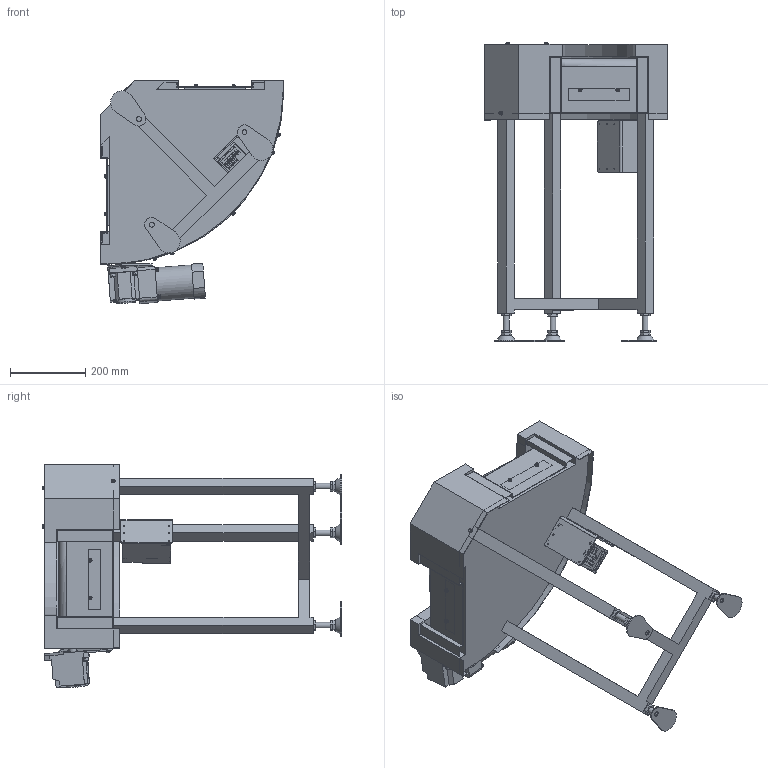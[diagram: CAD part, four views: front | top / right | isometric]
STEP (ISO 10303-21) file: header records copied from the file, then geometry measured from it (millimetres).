
FILE_DESCRIPTION( (''), '2;1');
FILE_NAME ('WEB-MBC2H-HS-309-200-90°-L-IVH-60-O.stp','2026-06-19T10:35:06',(''),(''),'spGate 21.9.5 (****-****-****-****)','','');
FILE_SCHEMA (('AUTOMOTIVE_DESIGN'));
Length unit declared in the file: millimetre
Products named in the file (37): WEB-MBC2H-HS-309-200-90_-L-IVH-60-O; TEMP_X_T-prt0; TEMP_X_T-prt1; TEMP_X_T-prt2; TEMP_X_T-prt3; TEMP_X_T-prt4; TEMP_X_T-prt5; TEMP_X_T-prt6; TEMP_X_T-prt7; TEMP_X_T-prt8; TEMP_X_T-prt9; TEMP_X_T-prt10; TEMP_X_T-prt11; TEMP_X_T-prt12; TEMP_X_T-prt13; TEMP_X_T-prt14; TEMP_X_T-prt15; TEMP_X_T-prt16; TEMP_X_T-prt17; TEMP_X_T-prt18; TEMP_X_T-prt19; TEMP_X_T-prt20; TEMP_X_T-prt21; TEMP_X_T-prt22; TEMP_X_T-prt23; TEMP_X_T-prt24; TEMP_X_T-prt25; TEMP_X_T-prt26; TEMP_X_T-prt27; TEMP_X_T-prt28; TEMP_X_T-prt29; TEMP_X_T-prt30; TEMP_X_T-prt31; TEMP_X_T-prt32; TEMP_X_T-prt33; TEMP_X_T-prt34; TEMP_X_T-prt35
Assembly tree (36 placements, depth 2):
  WEB-MBC2H-HS-309-200-90_-L-IVH-60-O
    TEMP_X_T-prt0
    TEMP_X_T-prt1
    TEMP_X_T-prt2
    TEMP_X_T-prt3
    TEMP_X_T-prt4
    TEMP_X_T-prt5
    TEMP_X_T-prt6
    TEMP_X_T-prt7
    TEMP_X_T-prt8
    TEMP_X_T-prt9
    TEMP_X_T-prt10
    TEMP_X_T-prt11
    TEMP_X_T-prt12
    TEMP_X_T-prt13
    TEMP_X_T-prt14
    TEMP_X_T-prt15
    TEMP_X_T-prt16
    TEMP_X_T-prt17
    TEMP_X_T-prt18
    TEMP_X_T-prt19
    TEMP_X_T-prt20
    TEMP_X_T-prt21
    TEMP_X_T-prt22
    TEMP_X_T-prt23
    TEMP_X_T-prt24
    TEMP_X_T-prt25
    TEMP_X_T-prt26
    TEMP_X_T-prt27
    TEMP_X_T-prt28
    TEMP_X_T-prt29
    TEMP_X_T-prt30
    TEMP_X_T-prt31
    TEMP_X_T-prt32
    TEMP_X_T-prt33
    TEMP_X_T-prt34
    TEMP_X_T-prt35
Bounding box: 488.1 x 794.6 x 593.38 mm (x, y, z)
Volume: 24120400.5 mm3; surface area: 1925358.7 mm2
Topology: 34 solids, 44 shells, 1476 faces, 3825 edges, 2590 vertices
Faces by surface type: plane 1142, cylinder 220, bspline 110, sphere 4
Full cylindrical faces by diameter (mm): 3.3 x6, 3.5 x12, 3.8 x2, 4 x10, 5 x1, 5.6 x2, 5.8 x10, 6 x7, 6.4 x4, 6.5 x6, 6.6 x2, 7 x3, 7.5 x1, 8 x3, 8.5 x4, 9 x18, 9.2 x13, 10 x18, 12 x1, 12.5 x4, 13 x5, 16 x9, 20 x1, 23 x1, 50 x2, 52 x1, 89 x1
Entity records: 81238 total; most frequent: CARTESIAN_POINT 13599, ORIENTED_EDGE 7626, DIRECTION 7175, COLOUR_RGB 5325, PRESENTATION_STYLE_ASSIGNMENT 5325, STYLED_ITEM 5325, EDGE_CURVE 3813, DRAUGHTING_PRE_DEFINED_CURVE_FONT 3813
